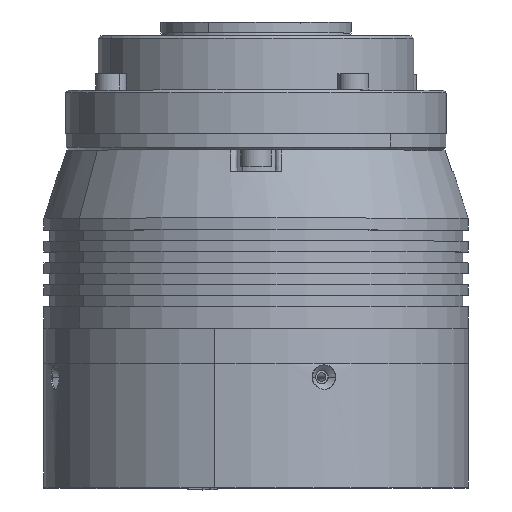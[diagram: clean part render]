
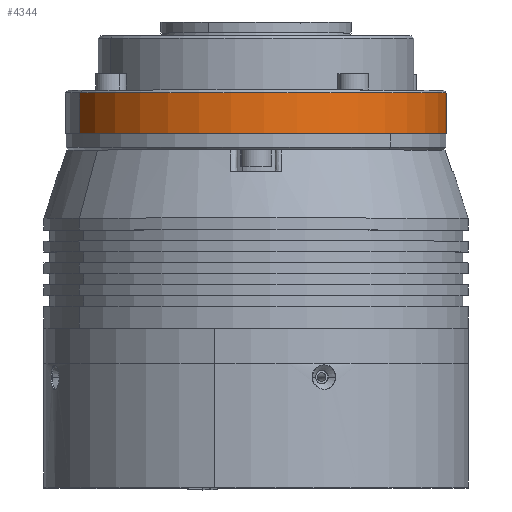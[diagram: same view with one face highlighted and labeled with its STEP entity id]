
A CAD part, top view. The second image highlights one B-rep face of the part: STEP entity #4344.
In plain terms, the highlighted cylindrical face has radius 35 mm (diameter 70 mm), a partial arc.
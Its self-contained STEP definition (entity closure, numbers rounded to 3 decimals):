
#373 = CIRCLE ( 'NONE', #3017, 35. ) ;
#692 = VERTEX_POINT ( 'NONE', #26114 ) ;
#1663 = CARTESIAN_POINT ( 'NONE',  ( 32.336, -4., -13.394 ) ) ;
#2247 = VERTEX_POINT ( 'NONE', #28593 ) ;
#2479 = VERTEX_POINT ( 'NONE', #28523 ) ;
#2844 = EDGE_CURVE ( 'NONE', #692, #4206, #373, .T. ) ;
#2992 = DIRECTION ( 'NONE',  ( 0., 1., 0. ) ) ;
#3017 = AXIS2_PLACEMENT_3D ( 'NONE', #28325, #2992, #27831 ) ;
#3739 = ORIENTED_EDGE ( 'NONE', *, *, #6299, .T. ) ;
#4206 = VERTEX_POINT ( 'NONE', #1663 ) ;
#4344 = ADVANCED_FACE ( 'NONE', ( #10047 ), #29606, .T. ) ;
#6299 = EDGE_CURVE ( 'NONE', #2247, #2479, #25463, .T. ) ;
#6412 = DIRECTION ( 'NONE',  ( 0., -1., 0. ) ) ;
#9706 = DIRECTION ( 'NONE',  ( 0.924, 0., -0.383 ) ) ;
#10047 = FACE_OUTER_BOUND ( 'NONE', #30972, .T. ) ;
#11106 = ORIENTED_EDGE ( 'NONE', *, *, #16203, .T. ) ;
#12016 = DIRECTION ( 'NONE',  ( 0., -1., 0. ) ) ;
#14431 = AXIS2_PLACEMENT_3D ( 'NONE', #32587, #12016, #9706 ) ;
#15509 = AXIS2_PLACEMENT_3D ( 'NONE', #19183, #28895, #23632 ) ;
#16203 = EDGE_CURVE ( 'NONE', #2479, #692, #23521, .T. ) ;
#16291 = CARTESIAN_POINT ( 'NONE',  ( 32.336, 14., -13.394 ) ) ;
#16774 = DIRECTION ( 'NONE',  ( 0., -1., 0. ) ) ;
#17404 = EDGE_CURVE ( 'NONE', #2247, #4206, #19233, .T. ) ;
#19183 = CARTESIAN_POINT ( 'NONE',  ( 0., 3.5, 0. ) ) ;
#19233 = LINE ( 'NONE', #16291, #25404 ) ;
#19879 = ORIENTED_EDGE ( 'NONE', *, *, #17404, .F. ) ;
#20144 = ORIENTED_EDGE ( 'NONE', *, *, #2844, .T. ) ;
#23521 = LINE ( 'NONE', #26134, #24514 ) ;
#23632 = DIRECTION ( 'NONE',  ( -0.924, 0., 0.383 ) ) ;
#24514 = VECTOR ( 'NONE', #6412, 1000. ) ;
#25404 = VECTOR ( 'NONE', #16774, 1000. ) ;
#25463 = CIRCLE ( 'NONE', #15509, 35. ) ;
#26114 = CARTESIAN_POINT ( 'NONE',  ( -32.336, -4., 13.394 ) ) ;
#26134 = CARTESIAN_POINT ( 'NONE',  ( -32.336, 14., 13.394 ) ) ;
#27831 = DIRECTION ( 'NONE',  ( -0.924, 0., 0.383 ) ) ;
#28325 = CARTESIAN_POINT ( 'NONE',  ( 0., -4., 0. ) ) ;
#28523 = CARTESIAN_POINT ( 'NONE',  ( -32.336, 3.5, 13.394 ) ) ;
#28593 = CARTESIAN_POINT ( 'NONE',  ( 32.336, 3.5, -13.394 ) ) ;
#28895 = DIRECTION ( 'NONE',  ( 0., -1., 0. ) ) ;
#29606 = CYLINDRICAL_SURFACE ( 'NONE', #14431, 35. ) ;
#30972 = EDGE_LOOP ( 'NONE', ( #3739, #11106, #20144, #19879 ) ) ;
#32587 = CARTESIAN_POINT ( 'NONE',  ( 0., 14., 0. ) ) ;
